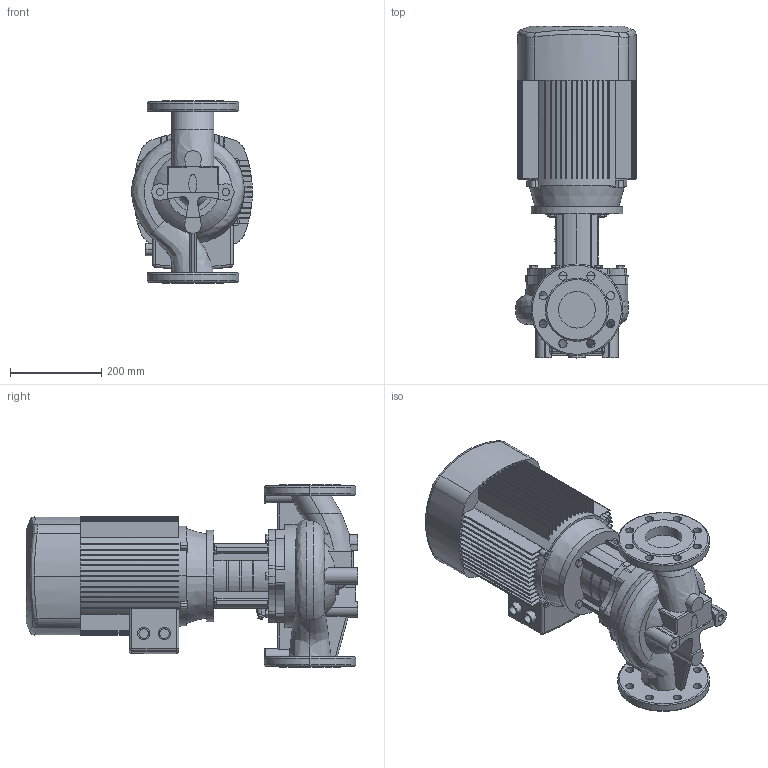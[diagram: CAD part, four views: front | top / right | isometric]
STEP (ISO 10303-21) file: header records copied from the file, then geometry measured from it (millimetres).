
FILE_DESCRIPTION (( 'STEP AP203' ), '1' );
FILE_NAME ('TD80-23G／2.STEP', '2026-09-07T02:32:01', ( '' ), ( '' ), 'SwSTEP 2.0', 'SolidWorks 2020', '' );
FILE_SCHEMA (( 'CONFIG_CONTROL_DESIGN' ));
Length unit declared in the file: millimetre
Products named in the file (1): TD80-23Gㄞ2
Bounding box: 263.99 x 726 x 400 mm (x, y, z)
Volume: 28730592.8 mm3; surface area: 1472743 mm2
Topology: 1 solids, 11 shells, 1061 faces, 2879 edges, 1870 vertices
Faces by surface type: plane 595, cylinder 258, cone 97, bspline 53, torus 52, sphere 6
Entity records: 44793 total; most frequent: CARTESIAN_POINT 18216, ORIENTED_EDGE 5746, DIRECTION 5345, EDGE_CURVE 2873, AXIS2_PLACEMENT_3D 1950, VERTEX_POINT 1870, VECTOR 1445, LINE 1445
